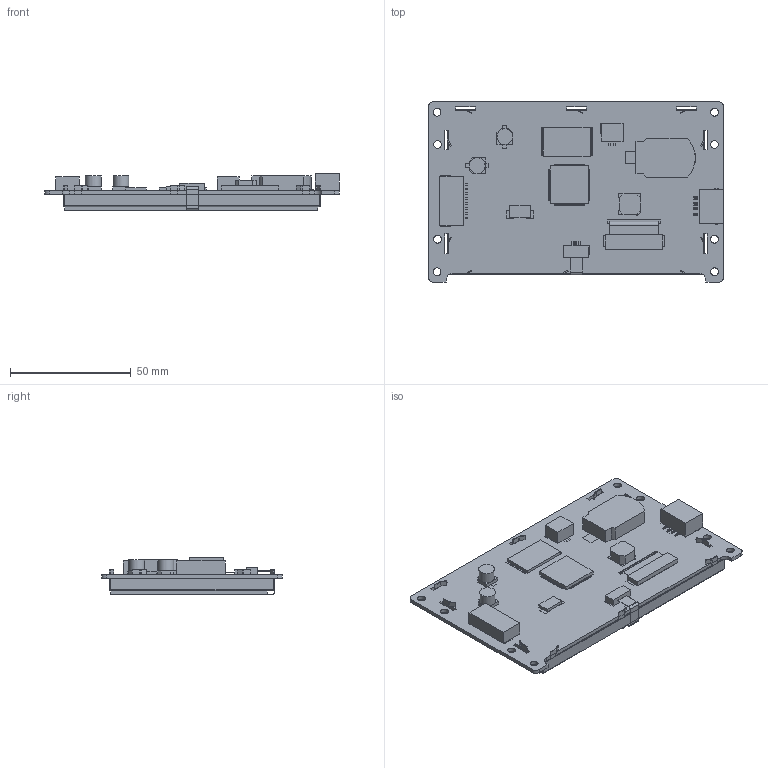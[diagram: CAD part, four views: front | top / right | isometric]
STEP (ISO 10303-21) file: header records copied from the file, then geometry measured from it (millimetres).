
FILE_DESCRIPTION(/* description */ (''),/* implementation_level */ '2;1');
FILE_NAME(/* name */ '3D_SDWe043T67T.stp',/* time_stamp */ '2020-10-09T11:15:42+08:00',/* author */ (''),/* organization */ (''),/* preprocessor_version */ 'ST-DEVELOPER v15',/* originating_system */ 'SIEMENS PLM Software NX 8.5',/* authorisation */ '');
FILE_SCHEMA (('AP203_CONFIGURATION_CONTROLLED_3D_DESIGN_OF_MECHANICAL_PARTS_AND_ASSEMBLIES_MIM_LF { 1 0 10303 403 2 1 2}'));
Length unit declared in the file: millimetre
Products named in the file (1): SDWe043T67
Bounding box: 121.9 x 74.7 x 15.26 mm (x, y, z)
Volume: 65485.8 mm3; surface area: 70701 mm2
Topology: 331 solids, 331 shells, 2113 faces, 4353 edges, 2902 vertices
Faces by surface type: plane 2047, cylinder 56, extrusion 10
Full cylindrical faces by diameter (mm): 3.2 x8, 6.522 x1, 6.557 x1
Entity records: 58538 total; most frequent: CARTESIAN_POINT 9869, ORIENTED_EDGE 8674, DIRECTION 8605, EDGE_CURVE 4337, VECTOR 4173, LINE 4163, VERTEX_POINT 2902, AXIS2_PLACEMENT_3D 2216
